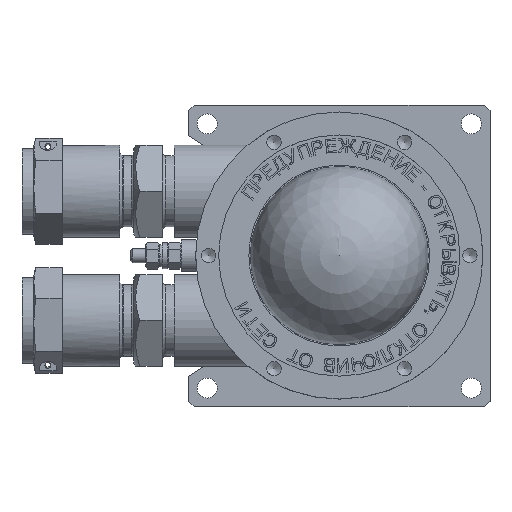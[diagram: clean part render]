
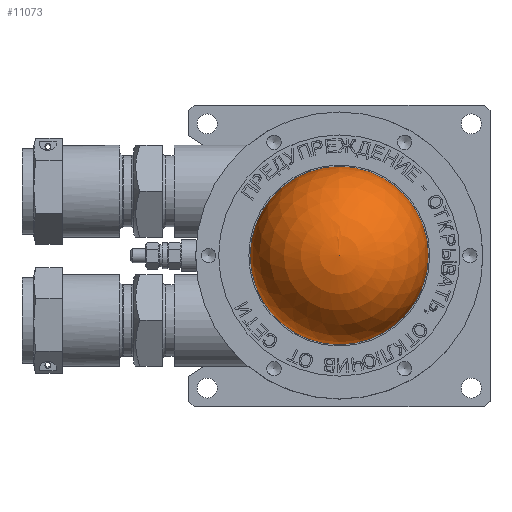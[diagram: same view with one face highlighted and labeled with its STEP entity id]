
A CAD part, top view. The second image highlights one B-rep face of the part: STEP entity #11073.
In plain terms, the highlighted spherical face has radius 31 mm.
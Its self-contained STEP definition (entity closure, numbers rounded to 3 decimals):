
#11073=ADVANCED_FACE('',(#21969),#21971,.T.);
#21969=FACE_OUTER_BOUND('',#21970,.T.);
#21970=EDGE_LOOP('',(#30632));
#21971=SPHERICAL_SURFACE('',#21972,31.);
#21972=AXIS2_PLACEMENT_3D('',#21973,#21974,#21975);
#21973=CARTESIAN_POINT('',(0.,0.,92.9));
#21974=DIRECTION('',(-0.,-0.,-1.));
#21975=DIRECTION('',(0.,1.,0.));
#30632=ORIENTED_EDGE('',*,*,#34845,.F.);
#34845=EDGE_CURVE('',#40935,#40935,#40936,.T.);
#40935=VERTEX_POINT('',#57532);
#40936=CIRCLE('',#57533,31.);
#57532=CARTESIAN_POINT('',(0.,31.,92.9));
#57533=AXIS2_PLACEMENT_3D('',#57534,#57535,#57536);
#57534=CARTESIAN_POINT('',(0.,0.,92.9));
#57535=DIRECTION('',(0.,0.,-1.));
#57536=DIRECTION('',(0.,1.,0.));
